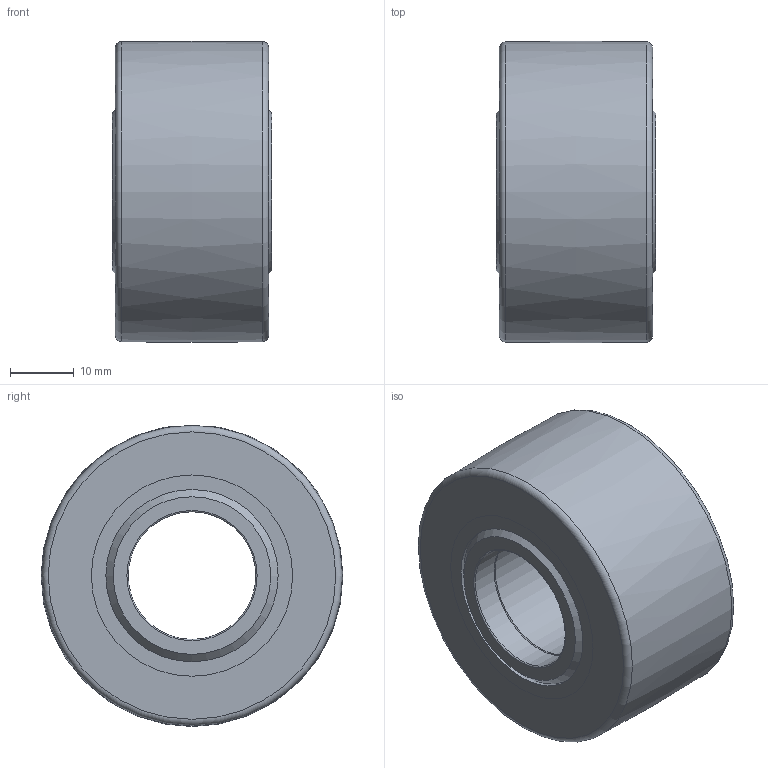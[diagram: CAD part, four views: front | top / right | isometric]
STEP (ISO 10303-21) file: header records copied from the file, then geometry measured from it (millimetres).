
FILE_DESCRIPTION(/* description */ (''),/* implementation_level */ '2;1');
FILE_NAME(/* name */ 'C:\Users\OUREHANEKD\Desktop\Ložiská 3D\MODELY\Ihlove loziska\NUTR\NUTR--\NUTR20.stp',/* time_stamp */ '2016-10-31T13:15:47+01:00',/* author */ ('OUREHANEKD'),/* organization */ (''),/* preprocessor_version */ 'ST-DEVELOPER v15.6',/* originating_system */ 'Autodesk Inventor 2015',/* authorisation */ '');
FILE_SCHEMA (('AUTOMOTIVE_DESIGN { 1 0 10303 214 3 1 1 }'));
Length unit declared in the file: millimetre
Products named in the file (6): NUTR20-01; NUTR20-02; NUTR20-kr; NUTR20-seal; NUTR20-needle; NUTR20
Assembly tree (15 placements, depth 2):
  NUTR20
    NUTR20-01
    NUTR20-02
    NUTR20-kr
    NUTR20-seal
    NUTR20-needle  x11
Bounding box: 25 x 47.29 x 47.17 mm (x, y, z)
Volume: 30272.9 mm3; surface area: 20709.6 mm2
Topology: 17 solids, 17 shells, 79 faces, 109 edges, 70 vertices
Faces by surface type: plane 40, cylinder 28, cone 6, torus 4, bspline 1
Full cylindrical faces by diameter (mm): 6.648 x11, 20 x3, 24.104 x1, 27 x4, 29.96 x4, 31.544 x4, 37.4 x1
Entity records: 1250 total; most frequent: DIRECTION 238, CARTESIAN_POINT 199, AXIS2_PLACEMENT_3D 119, ORIENTED_EDGE 102, EDGE_LOOP 95, EDGE_CURVE 51, CIRCLE 50, VERTEX_POINT 50
